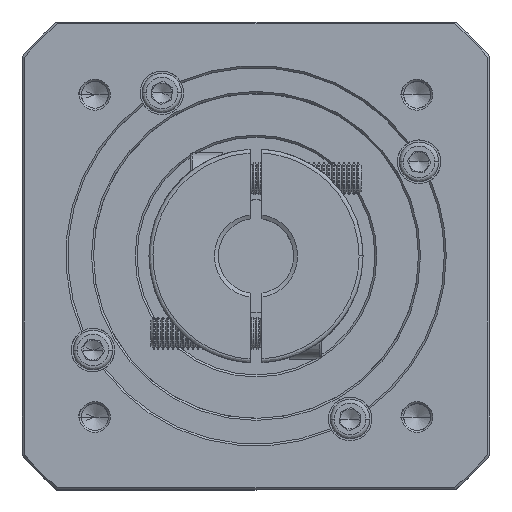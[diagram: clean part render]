
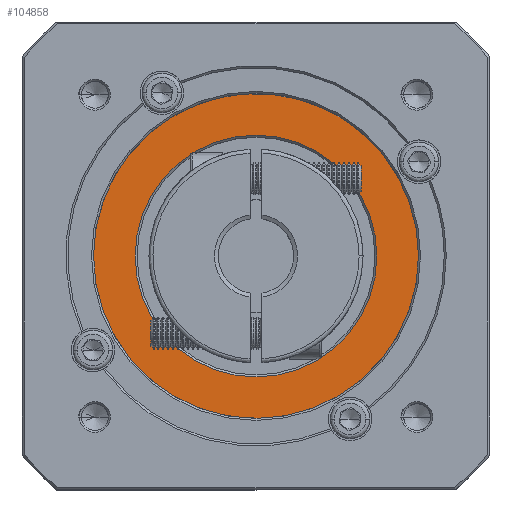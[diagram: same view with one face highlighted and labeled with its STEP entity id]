
A CAD part, top view. The second image highlights one B-rep face of the part: STEP entity #104858.
In plain terms, the highlighted planar face has unit normal (0, 0, 1).
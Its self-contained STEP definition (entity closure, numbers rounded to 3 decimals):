
#1444 = ORIENTED_EDGE ( 'NONE', *, *, #45615, .T. ) ;
#4011 = VERTEX_POINT ( 'NONE', #115952 ) ;
#4672 = DIRECTION ( 'NONE',  ( 1., 0., 0. ) ) ;
#9884 = VERTEX_POINT ( 'NONE', #37517 ) ;
#12752 = DIRECTION ( 'NONE',  ( 0., 0., 1. ) ) ;
#14978 = AXIS2_PLACEMENT_3D ( 'NONE', #79125, #21974, #88689 ) ;
#15983 = CARTESIAN_POINT ( 'NONE',  ( 89.194, 111.593, -1.811 ) ) ;
#17085 = VERTEX_POINT ( 'NONE', #57425 ) ;
#17539 = CARTESIAN_POINT ( 'NONE',  ( 50.335, 124.67, -1.811 ) ) ;
#18841 = EDGE_LOOP ( 'NONE', ( #97084, #122293, #85556, #105925, #32985, #105788 ) ) ;
#19084 = EDGE_CURVE ( 'NONE', #117389, #17085, #115969, .T. ) ;
#20344 = EDGE_CURVE ( 'NONE', #25243, #4011, #76695, .T. ) ;
#21974 = DIRECTION ( 'NONE',  ( 0., 0., 1. ) ) ;
#21988 = CIRCLE ( 'NONE', #65261, 41. ) ;
#22314 = DIRECTION ( 'NONE',  ( 0., 0., 1. ) ) ;
#25243 = VERTEX_POINT ( 'NONE', #29743 ) ;
#25640 = CIRCLE ( 'NONE', #86323, 41. ) ;
#27123 = DIRECTION ( 'NONE',  ( 1., 0., 0. ) ) ;
#28818 = CARTESIAN_POINT ( 'NONE',  ( 19.835, 124.67, -1.811 ) ) ;
#29743 = CARTESIAN_POINT ( 'NONE',  ( 9.335, 124.67, -1.811 ) ) ;
#29920 = CIRCLE ( 'NONE', #33136, 41. ) ;
#30114 = ORIENTED_EDGE ( 'NONE', *, *, #19084, .T. ) ;
#31197 = CARTESIAN_POINT ( 'NONE',  ( 50.335, 124.67, -1.811 ) ) ;
#32985 = ORIENTED_EDGE ( 'NONE', *, *, #72172, .T. ) ;
#33136 = AXIS2_PLACEMENT_3D ( 'NONE', #69932, #12752, #79491 ) ;
#37517 = CARTESIAN_POINT ( 'NONE',  ( 91.335, 124.67, -1.811 ) ) ;
#39694 = FACE_BOUND ( 'NONE', #120217, .T. ) ;
#40855 = DIRECTION ( 'NONE',  ( 1., 0., 0. ) ) ;
#42935 = VERTEX_POINT ( 'NONE', #15983 ) ;
#44658 = CARTESIAN_POINT ( 'NONE',  ( 50.335, 124.67, -1.811 ) ) ;
#45615 = EDGE_CURVE ( 'NONE', #17085, #117389, #61101, .T. ) ;
#49857 = AXIS2_PLACEMENT_3D ( 'NONE', #79483, #22314, #89018 ) ;
#50981 = EDGE_CURVE ( 'NONE', #9884, #86820, #65318, .T. ) ;
#51460 = DIRECTION ( 'NONE',  ( 0., 0., -1. ) ) ;
#54826 = DIRECTION ( 'NONE',  ( 0., 0., 1. ) ) ;
#55978 = DIRECTION ( 'NONE',  ( 1., 0., 0. ) ) ;
#57425 = CARTESIAN_POINT ( 'NONE',  ( 80.835, 124.67, -1.811 ) ) ;
#61101 = CIRCLE ( 'NONE', #108181, 30.5 ) ;
#61837 = DIRECTION ( 'NONE',  ( 0., 0., 1. ) ) ;
#65261 = AXIS2_PLACEMENT_3D ( 'NONE', #31197, #97848, #40855 ) ;
#65318 = CIRCLE ( 'NONE', #87806, 41. ) ;
#65438 = EDGE_CURVE ( 'NONE', #42935, #9884, #73866, .T. ) ;
#69932 = CARTESIAN_POINT ( 'NONE',  ( 50.335, 124.67, -1.811 ) ) ;
#72172 = EDGE_CURVE ( 'NONE', #121060, #25243, #21988, .T. ) ;
#73866 = CIRCLE ( 'NONE', #49857, 41. ) ;
#76695 = CIRCLE ( 'NONE', #14978, 41. ) ;
#79125 = CARTESIAN_POINT ( 'NONE',  ( 50.335, 124.67, -1.811 ) ) ;
#79483 = CARTESIAN_POINT ( 'NONE',  ( 50.335, 124.67, -1.811 ) ) ;
#79491 = DIRECTION ( 'NONE',  ( 1., 0., 0. ) ) ;
#79658 = CARTESIAN_POINT ( 'NONE',  ( 18.57, 150.593, -1.811 ) ) ;
#80130 = AXIS2_PLACEMENT_3D ( 'NONE', #44658, #111330, #55978 ) ;
#81184 = EDGE_CURVE ( 'NONE', #86820, #121060, #25640, .T. ) ;
#84233 = DIRECTION ( 'NONE',  ( 0., 0., -1. ) ) ;
#85556 = ORIENTED_EDGE ( 'NONE', *, *, #50981, .T. ) ;
#86323 = AXIS2_PLACEMENT_3D ( 'NONE', #118844, #61837, #4672 ) ;
#86820 = VERTEX_POINT ( 'NONE', #79658 ) ;
#87806 = AXIS2_PLACEMENT_3D ( 'NONE', #111896, #54826, #121459 ) ;
#88573 = EDGE_CURVE ( 'NONE', #4011, #42935, #29920, .T. ) ;
#88689 = DIRECTION ( 'NONE',  ( 1., 0., 0. ) ) ;
#89018 = DIRECTION ( 'NONE',  ( 1., 0., 0. ) ) ;
#90326 = FACE_OUTER_BOUND ( 'NONE', #18841, .T. ) ;
#91246 = CARTESIAN_POINT ( 'NONE',  ( 11.477, 137.748, -1.811 ) ) ;
#97084 = ORIENTED_EDGE ( 'NONE', *, *, #88573, .T. ) ;
#97848 = DIRECTION ( 'NONE',  ( 0., 0., 1. ) ) ;
#104858 = ADVANCED_FACE ( 'NONE', ( #90326, #39694 ), #120467, .T. ) ;
#105788 = ORIENTED_EDGE ( 'NONE', *, *, #20344, .T. ) ;
#105925 = ORIENTED_EDGE ( 'NONE', *, *, #81184, .T. ) ;
#108181 = AXIS2_PLACEMENT_3D ( 'NONE', #17539, #84233, #27123 ) ;
#108310 = AXIS2_PLACEMENT_3D ( 'NONE', #108562, #51460, #118124 ) ;
#108562 = CARTESIAN_POINT ( 'NONE',  ( 50.335, 124.67, -1.811 ) ) ;
#111330 = DIRECTION ( 'NONE',  ( 0., 0., 1. ) ) ;
#111896 = CARTESIAN_POINT ( 'NONE',  ( 50.335, 124.67, -1.811 ) ) ;
#115952 = CARTESIAN_POINT ( 'NONE',  ( 82.1, 98.748, -1.811 ) ) ;
#115969 = CIRCLE ( 'NONE', #108310, 30.5 ) ;
#117389 = VERTEX_POINT ( 'NONE', #28818 ) ;
#118124 = DIRECTION ( 'NONE',  ( 1., 0., 0. ) ) ;
#118844 = CARTESIAN_POINT ( 'NONE',  ( 50.335, 124.67, -1.811 ) ) ;
#120217 = EDGE_LOOP ( 'NONE', ( #1444, #30114 ) ) ;
#120467 = PLANE ( 'NONE',  #80130 ) ;
#121060 = VERTEX_POINT ( 'NONE', #91246 ) ;
#121459 = DIRECTION ( 'NONE',  ( 1., 0., 0. ) ) ;
#122293 = ORIENTED_EDGE ( 'NONE', *, *, #65438, .T. ) ;
